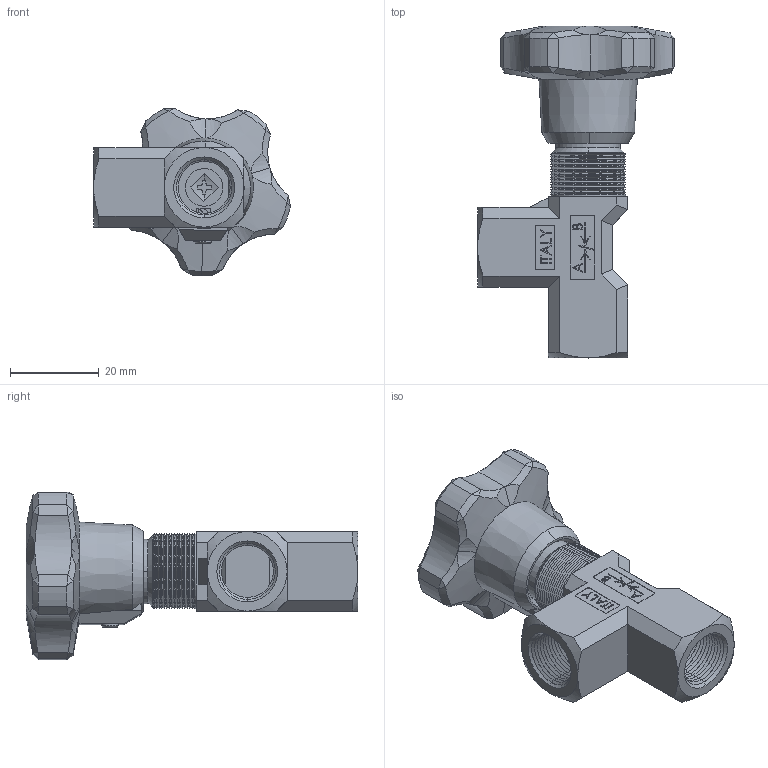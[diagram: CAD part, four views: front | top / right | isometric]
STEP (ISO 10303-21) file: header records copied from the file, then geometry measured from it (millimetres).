
FILE_DESCRIPTION (( 'STEP AP214' ), '1' );
FILE_NAME ('2252-2-14 VOLANTINO ABS F-F.STEP', '2015-05-19T15:20:31', ( '' ), ( '' ), 'SwSTEP 2.0', 'SolidWorks 2014', '' );
FILE_SCHEMA (( 'AUTOMOTIVE_DESIGN' ));
Length unit declared in the file: millimetre
Products named in the file (1): 2252-2-14 VOLANTINO ABS F-F
Bounding box: 44.51 x 75 x 37.91 mm (x, y, z)
Surface area: 10506.8 mm2 (no closed solid volume)
Topology: 0 solids, 18 shells, 565 faces, 1606 edges, 1020 vertices
Faces by surface type: plane 277, cone 166, cylinder 67, bspline 53, sphere 2
Entity records: 29721 total; most frequent: CARTESIAN_POINT 9453, ORIENTED_EDGE 2841, DIRECTION 2717, EDGE_CURVE 1606, VECTOR 1025, LINE 1025, VERTEX_POINT 1020, AXIS2_PLACEMENT_3D 846
